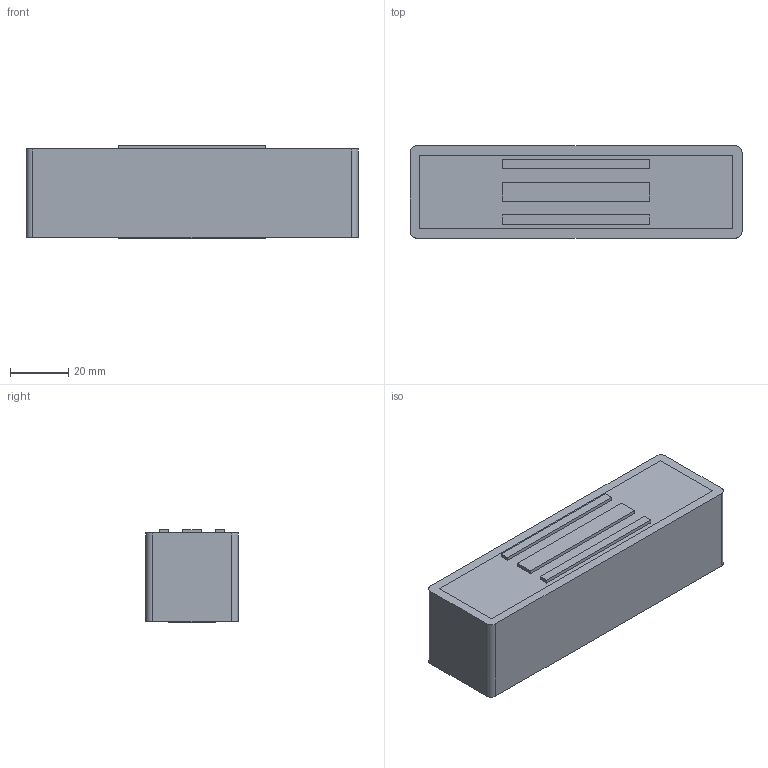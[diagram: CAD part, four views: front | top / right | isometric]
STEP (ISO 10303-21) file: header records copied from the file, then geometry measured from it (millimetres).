
FILE_DESCRIPTION (( 'STEP AP203' ), '1' );
FILE_NAME ('AC2201.STEP', '2018-07-26T17:37:29', ( '' ), ( '' ), 'SwSTEP 2.0', 'SolidWorks 2015', '' );
FILE_SCHEMA (( 'CONFIG_CONTROL_DESIGN' ));
Length unit declared in the file: inch
Products named in the file (1): AC2201
Bounding box: 114.3 x 31.75 x 32 mm (x, y, z)
Volume: 100586.4 mm3; surface area: 48655.7 mm2
Topology: 6 solids, 6 shells, 548 faces, 1431 edges, 954 vertices
Faces by surface type: plane 375, bspline 161, cylinder 12
Entity records: 26466 total; most frequent: CARTESIAN_POINT 13967, ORIENTED_EDGE 2862, DIRECTION 1909, EDGE_CURVE 1431, LINE 1085, VECTOR 1085, VERTEX_POINT 954, EDGE_LOOP 613
